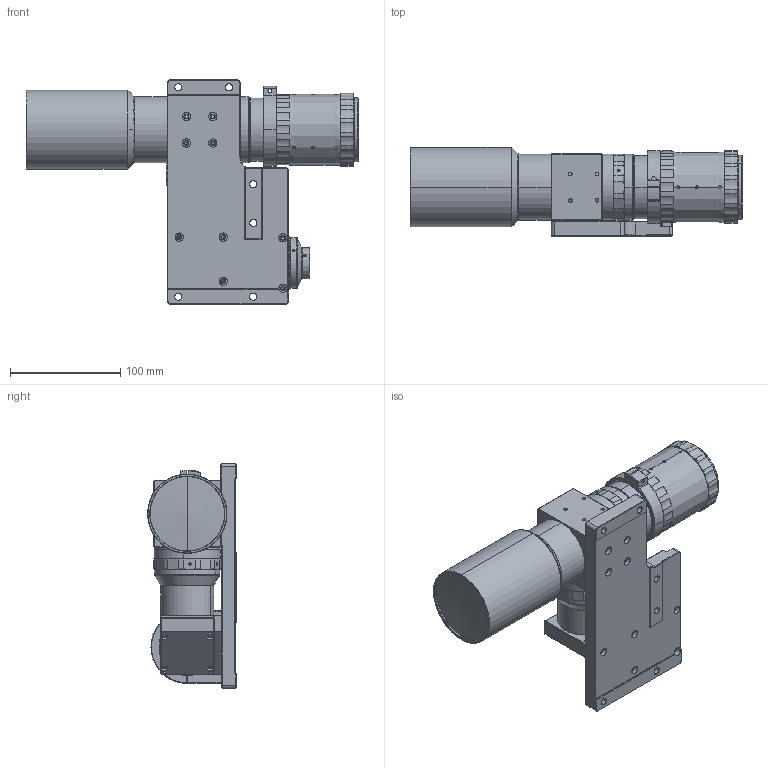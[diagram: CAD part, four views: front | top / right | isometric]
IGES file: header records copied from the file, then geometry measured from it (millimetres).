
Start section: SolidWorks IGES file using analytic representation for surfaces
Bounding box: 301.29 x 80.5 x 204 mm (x, y, z)
Surface area: 178716.4 mm2 (no closed solid volume)
Topology: 0 solids, 0 shells, 1144 faces, 16516 edges, 16494 vertices
Faces by surface type: revolution 794, bspline 350
